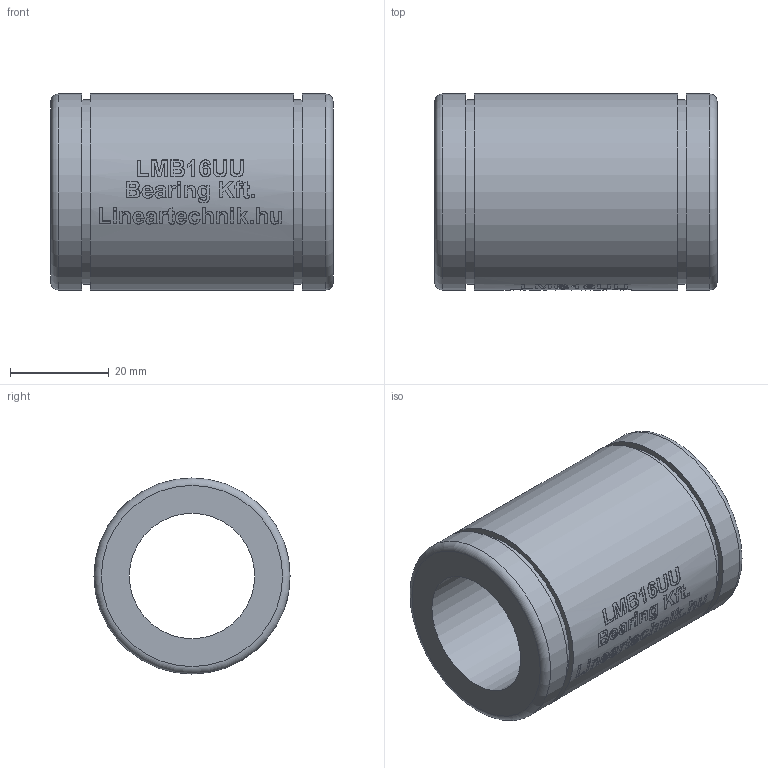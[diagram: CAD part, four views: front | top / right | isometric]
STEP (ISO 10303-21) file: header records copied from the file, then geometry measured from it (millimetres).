
FILE_DESCRIPTION(/* description */ (''),/* implementation_level */ '2;1');
FILE_NAME(/* name */ 'LMB16UU',/* time_stamp */ '2019-05-16T15:31:24+02:00',/* author */ ('VĂ©gh MĂˇtĂ©'),/* organization */ ('Bearing Kft'),/* preprocessor_version */ 'ST-DEVELOPER v16.7',/* originating_system */ 'DEX',/* authorisation */ $);
FILE_SCHEMA (('AUTOMOTIVE_DESIGN {1 0 10303 214 3 1 1}'));
Length unit declared in the file: millimetre
Products named in the file (1): LMB16UU
Bounding box: 57.15 x 39.69 x 39.69 mm (x, y, z)
Volume: 41114 mm3; surface area: 13578.6 mm2
Topology: 1 solids, 1 shells, 313 faces, 778 edges, 519 vertices
Faces by surface type: plane 159, bspline 98, cylinder 54, torus 2
Full cylindrical faces by diameter (mm): 25.4 x1, 37.306 x2, 39.688 x3
Entity records: 18959 total; most frequent: CARTESIAN_POINT 12037, ORIENTED_EDGE 1532, DIRECTION 1147, EDGE_CURVE 766, VERTEX_POINT 517, LINE 413, VECTOR 413, EDGE_LOOP 377
